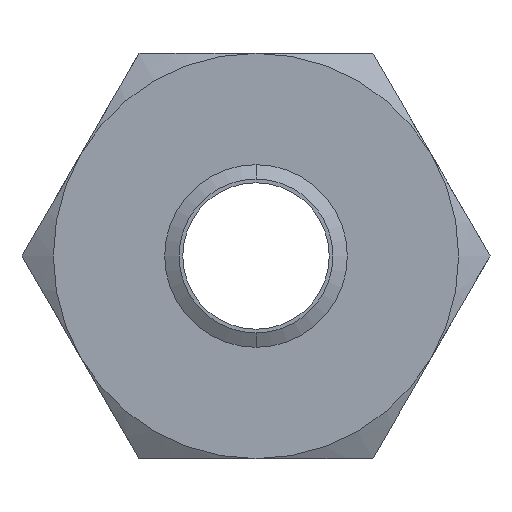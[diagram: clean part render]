
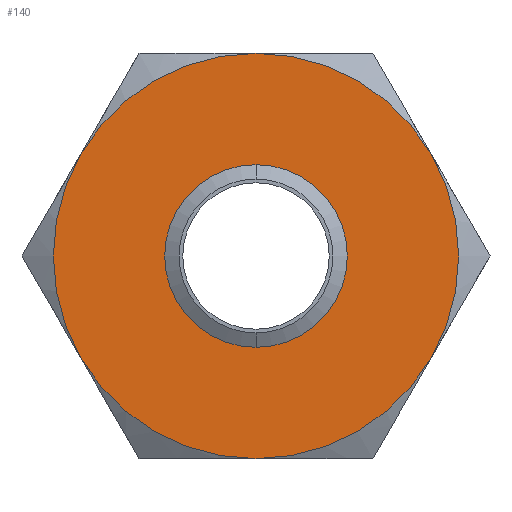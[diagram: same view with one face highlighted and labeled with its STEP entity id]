
A CAD part, front view. The second image highlights one B-rep face of the part: STEP entity #140.
In plain terms, the highlighted planar face has unit normal (0, -1, 0).
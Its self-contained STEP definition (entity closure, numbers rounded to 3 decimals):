
#82 = VERTEX_POINT ( 'NONE', #518 ) ;
#83 = ORIENTED_EDGE ( 'NONE', *, *, #85, .F. ) ;
#84 = VERTEX_POINT ( 'NONE', #517 ) ;
#85 = EDGE_CURVE ( 'NONE', #82, #84, #516, .T. ) ;
#86 = ORIENTED_EDGE ( 'NONE', *, *, #2268, .F. ) ;
#88 = VERTEX_POINT ( 'NONE', #510 ) ;
#89 = ORIENTED_EDGE ( 'NONE', *, *, #90, .F. ) ;
#90 = EDGE_CURVE ( 'NONE', #84, #88, #509, .T. ) ;
#91 = VERTEX_POINT ( 'NONE', #504 ) ;
#92 = ORIENTED_EDGE ( 'NONE', *, *, #95, .F. ) ;
#94 = VERTEX_POINT ( 'NONE', #501 ) ;
#95 = EDGE_CURVE ( 'NONE', #91, #94, #496, .T. ) ;
#96 = EDGE_CURVE ( 'NONE', #88, #91, #554, .T. ) ;
#98 = ORIENTED_EDGE ( 'NONE', *, *, #96, .F. ) ;
#140 = ADVANCED_FACE ( 'NONE', ( #596, #595 ), #594, .F. ) ;
#141 = EDGE_LOOP ( 'NONE', ( #92, #98, #89, #83, #86, #2359 ) ) ;
#492 = DIRECTION ( 'NONE',  ( 0., 0., 1. ) ) ;
#493 = DIRECTION ( 'NONE',  ( 0., 1., 0. ) ) ;
#494 = CARTESIAN_POINT ( 'NONE',  ( 0., 0., 0. ) ) ;
#495 = AXIS2_PLACEMENT_3D ( 'NONE', #494, #493, #492 ) ;
#496 = CIRCLE ( 'NONE', #495, 77.5 ) ;
#501 = CARTESIAN_POINT ( 'NONE',  ( 67.117, 0., 38.75 ) ) ;
#504 = CARTESIAN_POINT ( 'NONE',  ( 0., 0., 77.5 ) ) ;
#505 = DIRECTION ( 'NONE',  ( 0., 0., 1. ) ) ;
#506 = DIRECTION ( 'NONE',  ( 0., 1., 0. ) ) ;
#507 = CARTESIAN_POINT ( 'NONE',  ( 0., 0., 0. ) ) ;
#508 = AXIS2_PLACEMENT_3D ( 'NONE', #507, #506, #505 ) ;
#509 = CIRCLE ( 'NONE', #508, 77.5 ) ;
#510 = CARTESIAN_POINT ( 'NONE',  ( -67.117, 0., 38.75 ) ) ;
#512 = DIRECTION ( 'NONE',  ( 0., 0., 1. ) ) ;
#513 = DIRECTION ( 'NONE',  ( 0., 1., 0. ) ) ;
#514 = CARTESIAN_POINT ( 'NONE',  ( 0., 0., 0. ) ) ;
#515 = AXIS2_PLACEMENT_3D ( 'NONE', #514, #513, #512 ) ;
#516 = CIRCLE ( 'NONE', #515, 77.5 ) ;
#517 = CARTESIAN_POINT ( 'NONE',  ( -67.117, 0., -38.75 ) ) ;
#518 = CARTESIAN_POINT ( 'NONE',  ( 0., 0., -77.5 ) ) ;
#550 = DIRECTION ( 'NONE',  ( 0., 0., 1. ) ) ;
#551 = DIRECTION ( 'NONE',  ( 0., 1., 0. ) ) ;
#552 = CARTESIAN_POINT ( 'NONE',  ( 0., 0., 0. ) ) ;
#553 = AXIS2_PLACEMENT_3D ( 'NONE', #552, #551, #550 ) ;
#554 = CIRCLE ( 'NONE', #553, 77.5 ) ;
#590 = DIRECTION ( 'NONE',  ( 0., 0., 1. ) ) ;
#591 = DIRECTION ( 'NONE',  ( 0., 1., 0. ) ) ;
#592 = CARTESIAN_POINT ( 'NONE',  ( 44.745, 0., -77.5 ) ) ;
#593 = AXIS2_PLACEMENT_3D ( 'NONE', #592, #591, #590 ) ;
#594 = PLANE ( 'NONE',  #593 ) ;
#595 = FACE_BOUND ( 'NONE', #2321, .T. ) ;
#596 = FACE_OUTER_BOUND ( 'NONE', #141, .T. ) ;
#1273 = CIRCLE ( 'NONE', #1321, 29.426 ) ;
#1318 = DIRECTION ( 'NONE',  ( 0., 0., -1. ) ) ;
#1319 = DIRECTION ( 'NONE',  ( 0., -1., 0. ) ) ;
#1320 = CARTESIAN_POINT ( 'NONE',  ( 0., 0., 0. ) ) ;
#1321 = AXIS2_PLACEMENT_3D ( 'NONE', #1320, #1319, #1318 ) ;
#1399 = DIRECTION ( 'NONE',  ( 0., 0., 1. ) ) ;
#1400 = DIRECTION ( 'NONE',  ( 0., 1., 0. ) ) ;
#1401 = CARTESIAN_POINT ( 'NONE',  ( 0., 0., 0. ) ) ;
#1402 = AXIS2_PLACEMENT_3D ( 'NONE', #1401, #1400, #1399 ) ;
#1403 = CIRCLE ( 'NONE', #1402, 77.5 ) ;
#1543 = CARTESIAN_POINT ( 'NONE',  ( 67.117, 0., -38.75 ) ) ;
#1567 = DIRECTION ( 'NONE',  ( 0., 0., 1. ) ) ;
#1568 = DIRECTION ( 'NONE',  ( 0., 1., 0. ) ) ;
#1569 = CARTESIAN_POINT ( 'NONE',  ( 0., 0., 0. ) ) ;
#1570 = AXIS2_PLACEMENT_3D ( 'NONE', #1569, #1568, #1567 ) ;
#1574 = CIRCLE ( 'NONE', #1570, 77.5 ) ;
#1839 = DIRECTION ( 'NONE',  ( 0., 0., -1. ) ) ;
#1840 = DIRECTION ( 'NONE',  ( 0., -1., 0. ) ) ;
#1841 = CARTESIAN_POINT ( 'NONE',  ( 0., 0., 0. ) ) ;
#1842 = AXIS2_PLACEMENT_3D ( 'NONE', #1841, #1840, #1839 ) ;
#1843 = CIRCLE ( 'NONE', #1842, 29.426 ) ;
#1845 = CARTESIAN_POINT ( 'NONE',  ( 0., 0., 29.426 ) ) ;
#1846 = CARTESIAN_POINT ( 'NONE',  ( 0., 0., -29.426 ) ) ;
#2201 = ORIENTED_EDGE ( 'NONE', *, *, #2460, .F. ) ;
#2204 = EDGE_CURVE ( 'NONE', #2459, #2458, #1273, .T. ) ;
#2268 = EDGE_CURVE ( 'NONE', #2311, #82, #1403, .T. ) ;
#2311 = VERTEX_POINT ( 'NONE', #1543 ) ;
#2321 = EDGE_LOOP ( 'NONE', ( #2201, #2418 ) ) ;
#2333 = EDGE_CURVE ( 'NONE', #94, #2311, #1574, .T. ) ;
#2359 = ORIENTED_EDGE ( 'NONE', *, *, #2333, .F. ) ;
#2418 = ORIENTED_EDGE ( 'NONE', *, *, #2204, .F. ) ;
#2458 = VERTEX_POINT ( 'NONE', #1846 ) ;
#2459 = VERTEX_POINT ( 'NONE', #1845 ) ;
#2460 = EDGE_CURVE ( 'NONE', #2458, #2459, #1843, .T. ) ;
